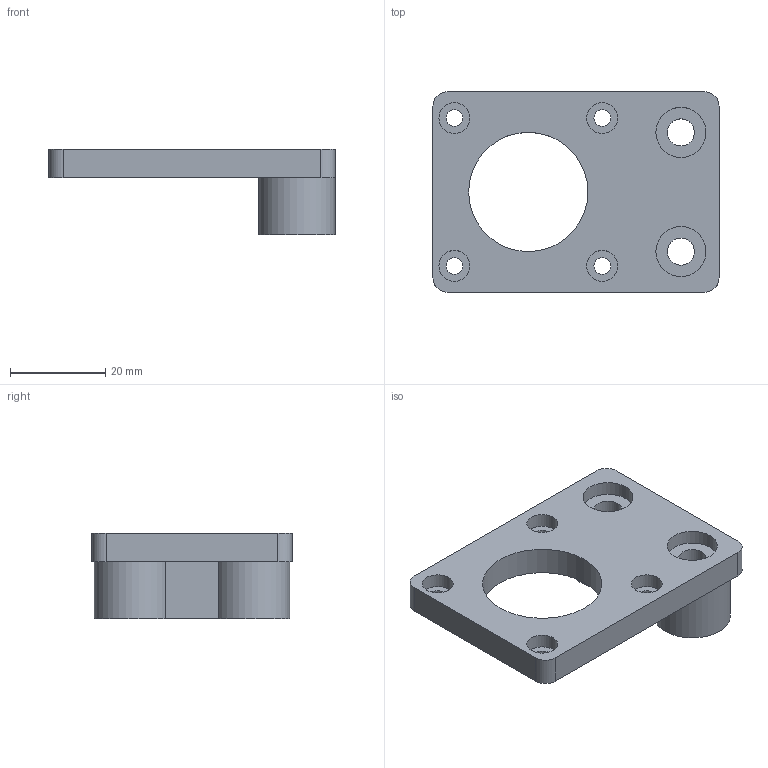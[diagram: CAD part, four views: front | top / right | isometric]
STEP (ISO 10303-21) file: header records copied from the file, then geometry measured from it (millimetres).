
FILE_DESCRIPTION(('Open CASCADE Model'),'2;1');
FILE_NAME('Open CASCADE Shape Model','2026-10-26T02:20:17',('Author'),( 'Open CASCADE'),'Open CASCADE STEP processor 7.9','build123d', 'Unknown');
FILE_SCHEMA(('AUTOMOTIVE_DESIGN { 1 0 10303 214 1 1 1 1 }'));
Length unit declared in the file: millimetre
Products named in the file (1): COMPOUND
Bounding box: 60 x 42 x 18 mm (x, y, z)
Volume: 16085.8 mm3; surface area: 7913 mm2
Topology: 1 solids, 1 shells, 35 faces, 79 edges, 52 vertices
Faces by surface type: cylinder 19, plane 16
Full cylindrical faces by diameter (mm): 3.5 x4, 5.7 x2, 6.5 x4, 10.5 x2, 25 x1
Entity records: 2080 total; most frequent: CARTESIAN_POINT 397, DIRECTION 327, ORIENTED_EDGE 158, PCURVE 158, DEFINITIONAL_REPRESENTATION 158, LINE 145, VECTOR 145, EDGE_CURVE 79
